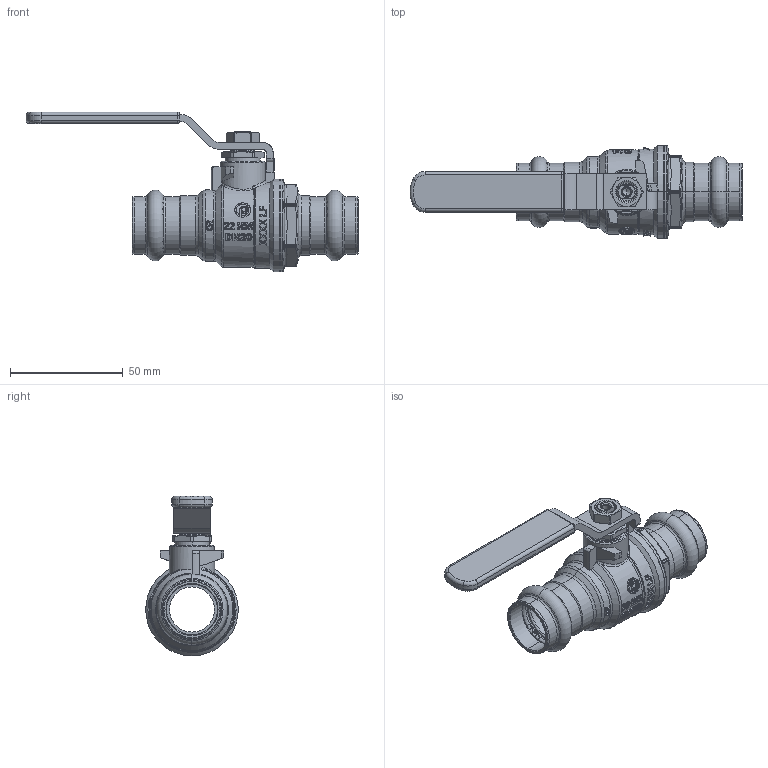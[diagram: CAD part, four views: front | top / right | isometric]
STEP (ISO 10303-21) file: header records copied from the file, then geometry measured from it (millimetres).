
FILE_DESCRIPTION(('Open CASCADE Model'),'2;1');
FILE_NAME('Open CASCADE Shape Model','2021-11-19T15:36:52',('Author'),( 'Open CASCADE'),'Open CASCADE STEP processor 7.3','Open CASCADE 7.3' ,'Unknown');
FILE_SCHEMA(('AUTOMOTIVE_DESIGN { 1 0 10303 214 1 1 1 1 }'));
Length unit declared in the file: millimetre
Products named in the file (24): Open CASCADE STEP translator 7.3 1; Open CASCADE STEP translator 7.3 1.1; Open CASCADE STEP translator 7.3 1.2; Open CASCADE STEP translator 7.3 1.3; Open CASCADE STEP translator 7.3 1.4; Open CASCADE STEP translator 7.3 1.5; Open CASCADE STEP translator 7.3 1.6; Open CASCADE STEP translator 7.3 1.7; Open CASCADE STEP translator 7.3 1.8; Open CASCADE STEP translator 7.3 1.9; Open CASCADE STEP translator 7.3 1.10; Open CASCADE STEP translator 7.3 1.11; Open CASCADE STEP translator 7.3 1.12; Open CASCADE STEP translator 7.3 1.13; Open CASCADE STEP translator 7.3 1.14; Open CASCADE STEP translator 7.3 1.15; Open CASCADE STEP translator 7.3 1.16; Open CASCADE STEP translator 7.3 1.17; Open CASCADE STEP translator 7.3 1.18; Open CASCADE STEP translator 7.3 1.19; Open CASCADE STEP translator 7.3 1.20; Open CASCADE STEP translator 7.3 1.21; Open CASCADE STEP translator 7.3 1.22; Open CASCADE STEP translator 7.3 1.23
Assembly tree (23 placements, depth 2):
  Open CASCADE STEP translator 7.3 1
    Open CASCADE STEP translator 7.3 1.1
    Open CASCADE STEP translator 7.3 1.2
    Open CASCADE STEP translator 7.3 1.3
    Open CASCADE STEP translator 7.3 1.4
    Open CASCADE STEP translator 7.3 1.5
    Open CASCADE STEP translator 7.3 1.6
    Open CASCADE STEP translator 7.3 1.7
    Open CASCADE STEP translator 7.3 1.8
    Open CASCADE STEP translator 7.3 1.9
    Open CASCADE STEP translator 7.3 1.10
    Open CASCADE STEP translator 7.3 1.11
    Open CASCADE STEP translator 7.3 1.12
    Open CASCADE STEP translator 7.3 1.13
    Open CASCADE STEP translator 7.3 1.14
    Open CASCADE STEP translator 7.3 1.15
    Open CASCADE STEP translator 7.3 1.16
    Open CASCADE STEP translator 7.3 1.17
    Open CASCADE STEP translator 7.3 1.18
    Open CASCADE STEP translator 7.3 1.19
    Open CASCADE STEP translator 7.3 1.20
    Open CASCADE STEP translator 7.3 1.21
    Open CASCADE STEP translator 7.3 1.22
    Open CASCADE STEP translator 7.3 1.23
Bounding box: 147.1 x 41 x 70.7 mm (x, y, z)
Volume: 51774.5 mm3; surface area: 48502.3 mm2
Topology: 15 solids, 23 shells, 1303 faces, 3183 edges, 1959 vertices
Faces by surface type: bspline 624, cylinder 223, plane 186, cone 117, torus 103, extrusion 31, revolution 16, sphere 3
Entity records: 187058 total; most frequent: CARTESIAN_POINT 133422, DIRECTION 6410, ORIENTED_EDGE 6316, PCURVE 6316, DEFINITIONAL_REPRESENTATION 6316, B_SPLINE_CURVE_WITH_KNOTS 5294, EDGE_CURVE 3181, SURFACE_CURVE 3181
